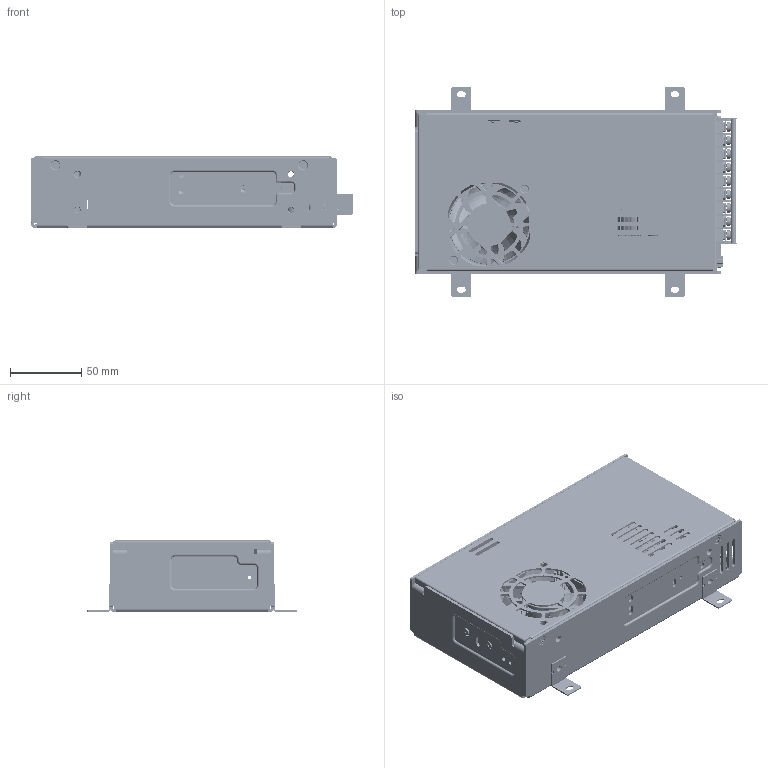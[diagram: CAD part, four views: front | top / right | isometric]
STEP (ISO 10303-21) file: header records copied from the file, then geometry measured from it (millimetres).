
FILE_DESCRIPTION((''),'2;1');
FILE_NAME('CASE_ASM','2014-07-02T',('LEON.YEH'),(''),'PRO/ENGINEER BY PARAMETRIC TECHNOLOGY CORPORATION, 2010280','PRO/ENGINEER BY PARAMETRIC TECHNOLOGY CORPORATION, 2010280','');
FILE_SCHEMA(('CONFIG_CONTROL_DESIGN'));
Products named in the file (58): CHASSIS_AF0; CHASSIS-STANDOFF; CHASSIS-STANDOFF-1; INSULATOR_AF0; CHASSIS_ASM; INSULATOR; HSK2; INSULATOR_TO247; D101_D102; 6020KUANG_48; 6020XIN_YE_29_4; 6020_ASM_6_ASM; _6020-1_ASM; 6020-1_ASM_ASM; PWB; 1; 2; 3; 4; 5; 6; 7; 8; 9; 10; T14-EO3109A301_ASM; COVER-2; VR132; CN102; ACCESSORIE; HSK1; L_PIN_LEFT; PIN1; BD1; HSK1_ASM_ASM; HSK3; LED_HOLDER; FL1; Q34; C7_C9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
Assembly tree (86 placements, depth 4):
  CASE_ASM
    CHASSIS_ASM
      CHASSIS_AF0
      CHASSIS-STANDOFF  x2
      CHASSIS-STANDOFF-1  x3
      INSULATOR_AF0
    INSULATOR
    HSK2
    INSULATOR_TO247
    D101_D102  x2
    6020-1_ASM_ASM
      6020_ASM_6_ASM
        6020KUANG_48
        6020XIN_YE_29_4
      _6020-1_ASM
    PWB
    T14-EO3109A301_ASM
      1
      2
      3
      4
      5
      6
      7
      8
      9
      10
    COVER-2
    VR132
    CN102
    ACCESSORIE  x4
    HSK1_ASM_ASM
      HSK1
      L_PIN_LEFT
      PIN1
      BD1
    HSK3
    LED_HOLDER
    FL1  x2
    Q34
    C7_C9
    F1
    FL1_1
    L101
    FL11
    T1
    3105325100-L6  x5
    NTC1_12_1
    CY_1  x6
    Q3_Q2_INSULATOR
    Q1_D2_INSULATOR
    Q1  x3
    D1
    3105319100-L8  x4
    3105329000-L6  x2
    3105318101-L5  x5
    HSK_ASY_ASM
      HSK3-1
      PIN1  x2
Bounding box: 226.1 x 147.4 x 50 mm (x, y, z)
Volume: 325934.2 mm3; surface area: 437624.8 mm2
Topology: 167 solids, 169 shells, 6848 faces, 17596 edges, 10944 vertices
Faces by surface type: cylinder 2572, plane 2477, torus 1312, bspline 317, cone 124, revolution 24, extrusion 14, sphere 8
Entity records: 216375 total; most frequent: CARTESIAN_POINT 80111, ORIENTED_EDGE 28888, DIRECTION 27650, EDGE_CURVE 14444, AXIS2_PLACEMENT_3D 10395, VERTEX_POINT 9232, VECTOR 6856, LINE 6842
